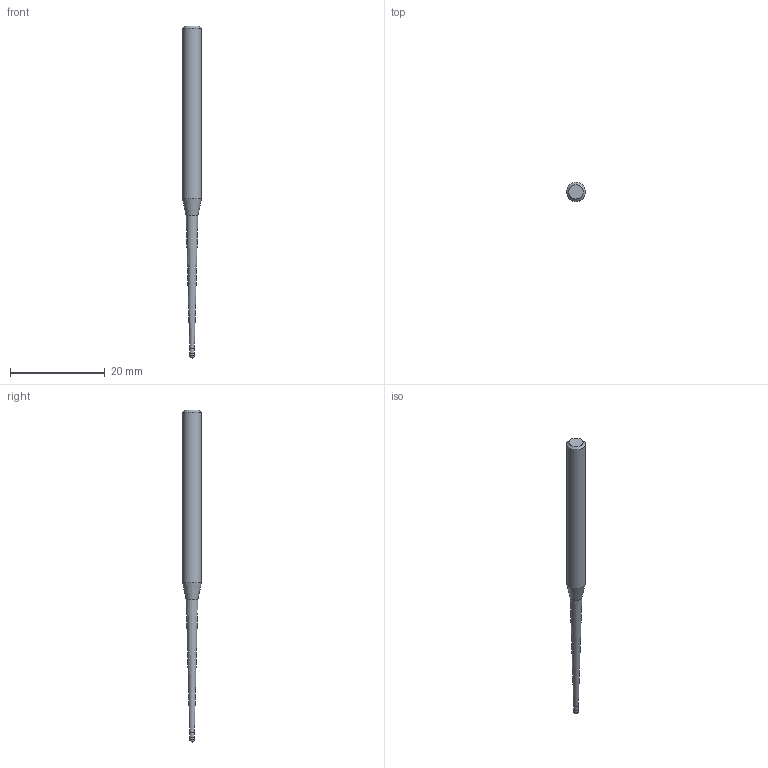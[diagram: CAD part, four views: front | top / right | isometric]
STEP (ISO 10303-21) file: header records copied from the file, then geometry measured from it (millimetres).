
FILE_DESCRIPTION((''),'2;1');
FILE_NAME('C:\Users\nsx150\AppData\Local\Temp\Mastercam 2021\SNAKH10GOD\TEMP.step','2021-10-21T13:32:16',(''),(''),'STEP Write','Mastercam 2021 ... CNC Software, Inc.','');
FILE_SCHEMA(('AUTOMOTIVE_DESIGN'));
Length unit declared in the file: millimetre
Products named in the file (1): None
Bounding box: 4 x 4 x 70 mm (x, y, z)
Volume: 557.2 mm3; surface area: 663.2 mm2
Topology: 2 solids, 2 shells, 10 faces, 16 edges, 9 vertices
Faces by surface type: plane 3, cylinder 3, cone 3, sphere 1
Full cylindrical faces by diameter (mm): 0.985 x1, 1 x1, 4 x1
Entity records: 232 total; most frequent: DIRECTION 40, CARTESIAN_POINT 28, AXIS2_PLACEMENT_3D 20, ORIENTED_EDGE 16, EDGE_LOOP 16, STYLED_ITEM 13, ADVANCED_FACE 10, FACE_BOUND 9
